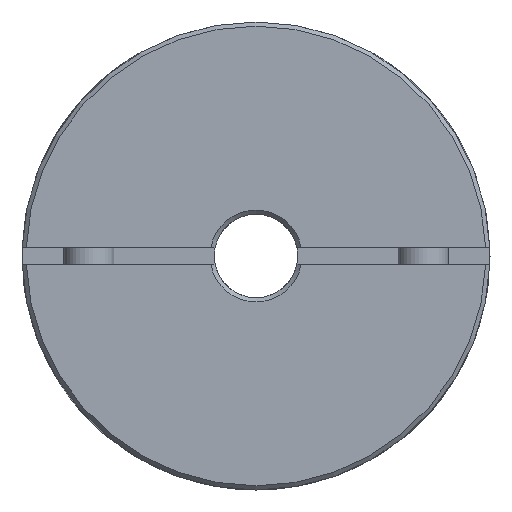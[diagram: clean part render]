
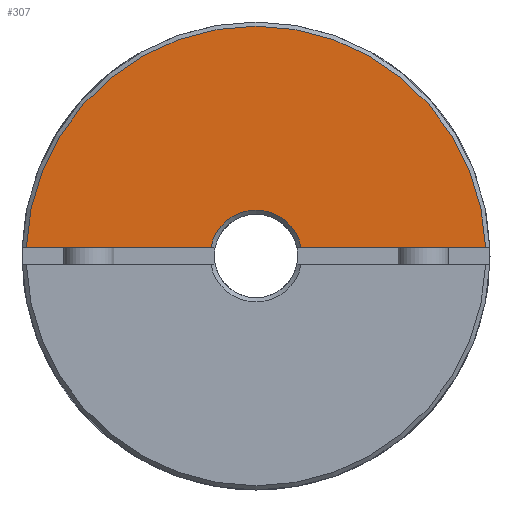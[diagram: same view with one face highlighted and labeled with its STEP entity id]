
A CAD part, left-side view. The second image highlights one B-rep face of the part: STEP entity #307.
In plain terms, the highlighted planar face has unit normal (-1, 0, 0) as drawn and (1, 0, 0) by its records, which use the part's own axes.
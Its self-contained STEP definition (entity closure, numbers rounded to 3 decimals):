
#307 = ADVANCED_FACE( '', ( #607 ), #608, .T. );
#607 = FACE_OUTER_BOUND( '', #946, .T. );
#608 = PLANE( '', #947 );
#946 = EDGE_LOOP( '', ( #1385, #1386, #1387, #1388 ) );
#947 = AXIS2_PLACEMENT_3D( '', #1389, #1390, #1391 );
#1385 = ORIENTED_EDGE( '', *, *, #1797, .F. );
#1386 = ORIENTED_EDGE( '', *, *, #1806, .T. );
#1387 = ORIENTED_EDGE( '', *, *, #1852, .F. );
#1388 = ORIENTED_EDGE( '', *, *, #1853, .T. );
#1389 = CARTESIAN_POINT( '', ( 21., 0., 28. ) );
#1390 = DIRECTION( '', ( 1., 0., 0. ) );
#1391 = DIRECTION( '', ( 0., 0., -1. ) );
#1797 = EDGE_CURVE( '', #2060, #2062, #2063, .T. );
#1806 = EDGE_CURVE( '', #2060, #2075, #2077, .T. );
#1852 = EDGE_CURVE( '', #2144, #2075, #2145, .T. );
#1853 = EDGE_CURVE( '', #2144, #2062, #2146, .F. );
#2060 = VERTEX_POINT( '', #2670 );
#2062 = VERTEX_POINT( '', #2675 );
#2063 = LINE( '', #2676, #2677 );
#2075 = VERTEX_POINT( '', #2694 );
#2077 = CIRCLE( '', #2699, 27.5 );
#2144 = VERTEX_POINT( '', #2775 );
#2145 = LINE( '', #2776, #2777 );
#2146 = CIRCLE( '', #2778, 5.5 );
#2670 = CARTESIAN_POINT( '', ( 21., 27.482, 1. ) );
#2675 = CARTESIAN_POINT( '', ( 21., 5.408, 1. ) );
#2676 = CARTESIAN_POINT( '', ( 21., 0., 1. ) );
#2677 = VECTOR( '', #3006, 1000. );
#2694 = CARTESIAN_POINT( '', ( 21., -27.482, 1. ) );
#2699 = AXIS2_PLACEMENT_3D( '', #3015, #3016, #3017 );
#2775 = CARTESIAN_POINT( '', ( 21., -5.408, 1. ) );
#2776 = CARTESIAN_POINT( '', ( 21., 0., 1. ) );
#2777 = VECTOR( '', #3081, 1000. );
#2778 = AXIS2_PLACEMENT_3D( '', #3082, #3083, #3084 );
#3006 = DIRECTION( '', ( 0., -1., 0. ) );
#3015 = CARTESIAN_POINT( '', ( 21., 0., 0. ) );
#3016 = DIRECTION( '', ( 1., 0., 0. ) );
#3017 = DIRECTION( '', ( 0., 0., -1. ) );
#3081 = DIRECTION( '', ( 0., -1., 0. ) );
#3082 = CARTESIAN_POINT( '', ( 21., 0., 0. ) );
#3083 = DIRECTION( '', ( 1., 0., 0. ) );
#3084 = DIRECTION( '', ( 0., 0., -1. ) );
